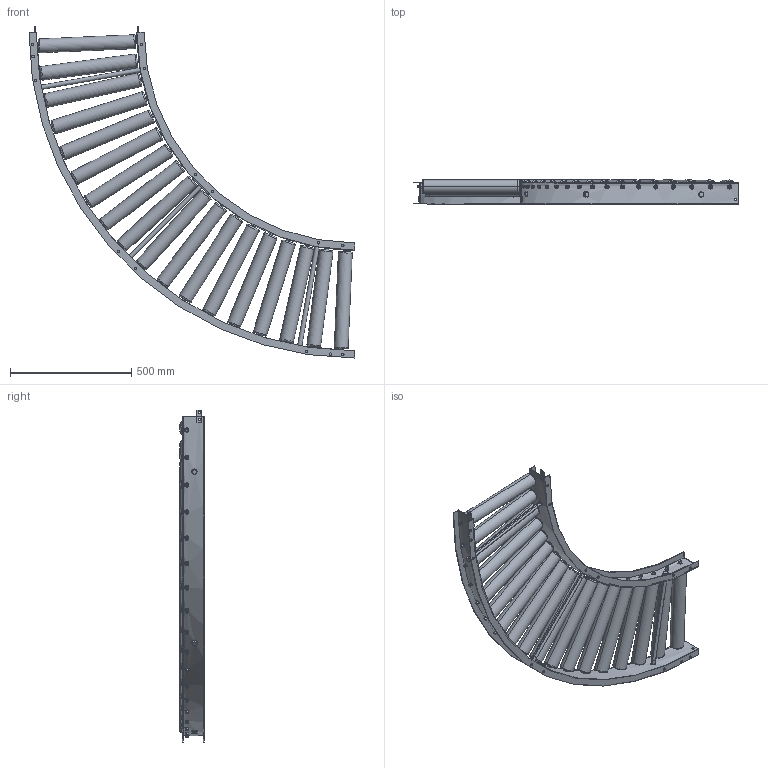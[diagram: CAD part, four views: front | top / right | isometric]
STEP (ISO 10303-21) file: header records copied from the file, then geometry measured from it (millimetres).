
FILE_DESCRIPTION (( 'STEP AP203' ), '1' );
FILE_NAME ('R-5721D_C.step', '2024-03-15T02:33:43', ( '' ), ( '' ), 'SwSTEP 2.0', 'SolidWorks 2023', '' );
FILE_SCHEMA (( 'CONFIG_CONTROL_DESIGN' ));
Length unit declared in the file: millimetre
Products named in the file (1): R-5721D_C
Bounding box: 1345 x 100.1 x 1370.1 mm (x, y, z)
Volume: 19753423.6 mm3; surface area: 3351354 mm2
Topology: 55 solids, 55 shells, 820 faces, 1896 edges, 1228 vertices
Faces by surface type: cylinder 406, plane 306, torus 72, cone 36
Entity records: 30605 total; most frequent: CARTESIAN_POINT 11349, DIRECTION 4102, ORIENTED_EDGE 3792, EDGE_CURVE 1896, AXIS2_PLACEMENT_3D 1701, VERTEX_POINT 1228, EDGE_LOOP 1068, CIRCLE 880
